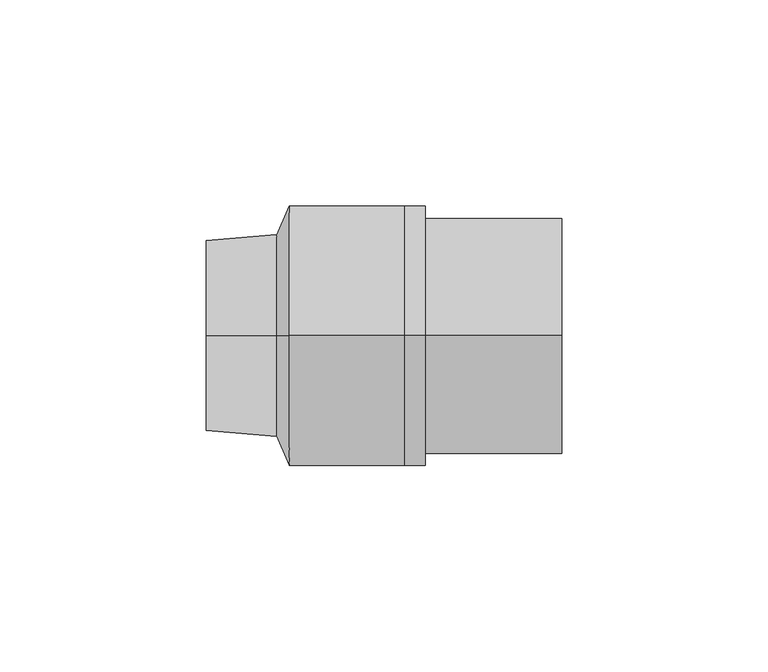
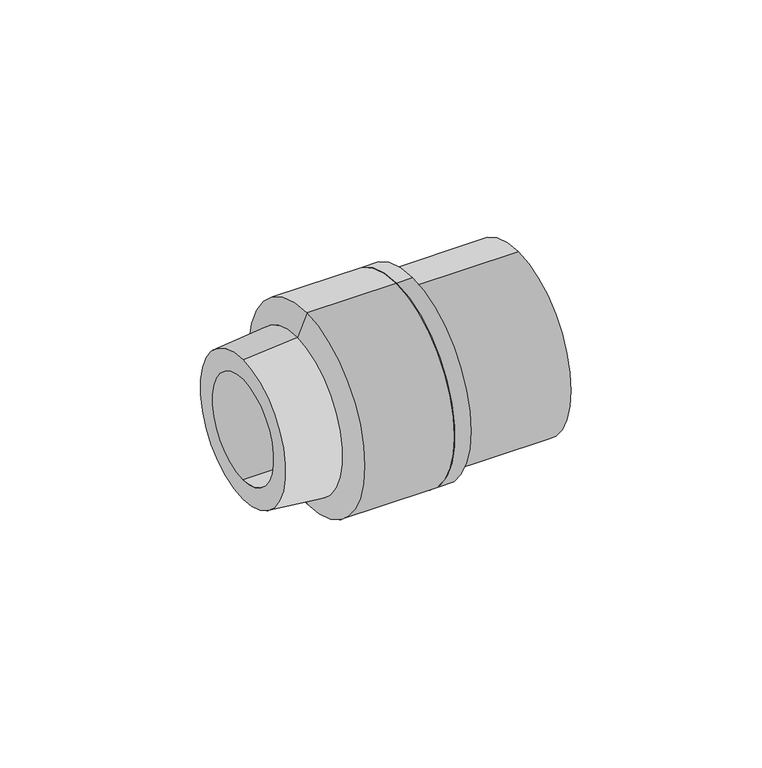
"""IFC4 building model written with IfcOpenShell, lengths in millimetres: pipe fitting geometry, Pipelife - PE - Zaślepka : Pipelife - PE - Zaślepka."""

from ifc_helpers import new_model, si_unit, point, frame, origin, origin_2d, place, context, project, spatial, polyline, circle_curve, trimmed, segment, composite_curve, outline, extrude, source, transform, mapped, element, save
from ifc_brep_helpers import plane_surface, cylinder_surface, revolved_surface, advanced_brep


def pipe_fitting_5493825f(model_context):
    return source(origin(), model_context, "Body", "SolidModel", [
        advanced_brep(
        [(-27.0, 0.0, -28.5), (-27.0, 0.0, 28.5), (-27.0, 0.0, 16.5), (-27.0, 0.0, -16.5), (6.0, 0.0, -28.5), (6.0, 0.0, 28.5), (0.0, 0.0, -16.5), (0.0, 0.0, 16.5)],
        [
            (0, 1, circle_curve(frame((-27.0, 0.0, 0.0), z_axis=(-1.0, 0.0, 0.0), x_axis=(0.0, 0.0, 1.0)), 28.5)),
            (1, 0, circle_curve(frame((-27.0, 0.0, 0.0), z_axis=(-1.0, 0.0, 0.0), x_axis=(0.0, 0.0, 1.0)), 28.5)),
            (2, 3, circle_curve(frame((-27.0, 0.0, 0.0), z_axis=(1.0, 0.0, 0.0), x_axis=(0.0, 0.0, 1.0)), 16.5)),
            (3, 2, circle_curve(frame((-27.0, 0.0, 0.0), z_axis=(1.0, 0.0, 0.0), x_axis=(0.0, 0.0, 1.0)), 16.5)),
            (4, 5, circle_curve(frame((6.0, 0.0, 0.0), z_axis=(1.0, 0.0, 0.0), x_axis=(0.0, 0.0, 1.0)), 28.5)),
            (5, 4, circle_curve(frame((6.0, 0.0, 0.0), z_axis=(1.0, 0.0, 0.0), x_axis=(0.0, 0.0, 1.0)), 28.5)),
            (0, 4),
            (5, 1),
            (6, 7, circle_curve(frame((0.0, 0.0, 0.0), z_axis=(-1.0, 0.0, 0.0), x_axis=(0.0, 0.0, 1.0)), 16.5)),
            (7, 6, circle_curve(frame((0.0, 0.0, 0.0), z_axis=(-1.0, 0.0, 0.0), x_axis=(0.0, 0.0, 1.0)), 16.5)),
            (6, 3),
            (2, 7),
        ],
        [
            plane_surface(frame((-27.0, 0.0, 0.0), z_axis=(-1.0, 0.0, 0.0), x_axis=(0.0, -1.0, 0.0))),
            plane_surface(frame((6.0, 0.0, 0.0), z_axis=(1.0, 0.0, 0.0), x_axis=(0.0, -1.0, 0.0))),
            cylinder_surface(frame((-27.0, 0.0, 0.0), z_axis=(-1.0, 0.0, 0.0), x_axis=(0.0, 0.0, 1.0)), 28.5),
            plane_surface(frame((0.0, 0.0, 0.0), z_axis=(-1.0, 0.0, 0.0), x_axis=(0.0, -1.0, 0.0))),
            revolved_surface(polyline([(-27.0, 0.0, 16.5), (0.0, 0.0, 16.5)]), (-80.0, 0.0, 0.0), (-1.0, 0.0, 0.0)),
        ],
        [
            (0, [[1, 2], [3, 4]]),
            (1, [[5, 6]]),
            (2, [[-1, 7, -6, 8]]),
            (2, [[-2, -8, -5, -7]]),
            (3, [[9, 10]]),
            (4, [[-9, 11, -3, 12]]),
            (4, [[-10, -12, -4, -11]]),
        ],
    ),
        extrude(outline(composite_curve([segment(trimmed(circle_curve(origin_2d(), 31.5), [point((0.0, -31.5))], [point((0.0, 31.5))], False, "CARTESIAN"), True, "CONTINUOUS"), segment(trimmed(circle_curve(origin_2d(), 31.5), [point((0.0, 31.5))], [point((0.0, -31.5))], False, "CARTESIAN"), True, "CONTINUOUS")], self_intersect=False), holes=[composite_curve([segment(trimmed(circle_curve(origin_2d(), 16.5), [point((0.0, 16.5))], [point((0.0, -16.5))], True, "CARTESIAN"), True, "CONTINUOUS"), segment(trimmed(circle_curve(origin_2d(), 16.5), [point((0.0, -16.5))], [point((0.0, 16.5))], True, "CARTESIAN"), True, "CONTINUOUS")], self_intersect=False)]), frame((-32.0, 0.0, 0.0), z_axis=(1.0, 0.0, 0.0), x_axis=(0.0, 1.0, 0.0)), (0.0, 0.0, 1.0), 5.0),
        advanced_brep(
        [(-32.0, 0.0, -31.5), (-32.0, 0.0, 31.5), (-32.0, 0.0, -16.5), (-32.0, 0.0, 16.5), (-60.0, 0.0, 31.5), (-60.0, 0.0, -31.5), (-80.0, 0.0, -16.5), (-80.0, 0.0, 16.5), (-63.0, 0.0, -24.5), (-63.0, 0.0, 24.5), (-80.0, 0.0, 23.0), (-80.0, 0.0, -23.0)],
        [
            (0, 1, circle_curve(frame((-32.0, 0.0, 0.0), z_axis=(1.0, 0.0, 0.0), x_axis=(0.0, 0.0, 1.0)), 31.5)),
            (1, 0, circle_curve(frame((-32.0, 0.0, 0.0), z_axis=(1.0, 0.0, 0.0), x_axis=(0.0, 0.0, 1.0)), 31.5)),
            (2, 3, circle_curve(frame((-32.0, 0.0, 0.0), z_axis=(-1.0, 0.0, 0.0), x_axis=(0.0, 0.0, 1.0)), 16.5)),
            (3, 2, circle_curve(frame((-32.0, 0.0, 0.0), z_axis=(-1.0, 0.0, 0.0), x_axis=(0.0, 0.0, 1.0)), 16.5)),
            (1, 4),
            (4, 5, circle_curve(frame((-60.0, 0.0, 0.0), z_axis=(1.0, 0.0, 0.0), x_axis=(0.0, 0.0, 1.0)), 31.5)),
            (5, 0),
            (5, 4, circle_curve(frame((-60.0, 0.0, 0.0), z_axis=(1.0, 0.0, 0.0), x_axis=(0.0, 0.0, 1.0)), 31.5)),
            (2, 6),
            (6, 7, circle_curve(frame((-80.0, 0.0, 0.0), z_axis=(-1.0, 0.0, 0.0), x_axis=(0.0, 0.0, 1.0)), 16.5)),
            (7, 3),
            (7, 6, circle_curve(frame((-80.0, 0.0, 0.0), z_axis=(-1.0, 0.0, 0.0), x_axis=(0.0, 0.0, 1.0)), 16.5)),
            (5, 8),
            (8, 9, circle_curve(frame((-63.0, 0.0, 0.0), z_axis=(1.0, 0.0, 0.0), x_axis=(0.0, 0.0, 1.0)), 24.5)),
            (9, 4),
            (9, 8, circle_curve(frame((-63.0, 0.0, 0.0), z_axis=(1.0, 0.0, 0.0), x_axis=(0.0, 0.0, -1.0)), 24.5)),
            (10, 11, circle_curve(frame((-80.0, 0.0, 0.0), z_axis=(-1.0, 0.0, 0.0), x_axis=(0.0, 0.0, 1.0)), 23.0)),
            (11, 10, circle_curve(frame((-80.0, 0.0, 0.0), z_axis=(-1.0, 0.0, 0.0), x_axis=(0.0, 0.0, -1.0)), 23.0)),
            (10, 9),
            (8, 11),
        ],
        [
            plane_surface(frame((-32.0, 0.0, 0.0), z_axis=(1.0, 0.0, 0.0), x_axis=(0.0, -1.0, 0.0))),
            cylinder_surface(frame((-60.0, 0.0, 0.0), z_axis=(-1.0, 0.0, 0.0), x_axis=(0.0, 0.0, 1.0)), 31.5),
            revolved_surface(polyline([(-80.0, 0.0, 16.5), (-32.0, 0.0, 16.5)]), (-80.0, 0.0, 0.0), (-1.0, 0.0, 0.0)),
            revolved_surface(polyline([(-63.0, 0.0, -24.5), (-60.0, 0.0, -31.5)]), (-73.5, 0.0, 0.0), (1.0, 0.0, 0.0)),
            plane_surface(frame((-80.0, 0.0, 0.0), z_axis=(-1.0, 0.0, 0.0), x_axis=(0.0, 1.0, 0.0))),
            revolved_surface(polyline([(-80.0, 0.0, 23.00000000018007), (-63.0, 0.0, 24.5)]), (-340.6666667, 0.0, 0.0), (1.0, 0.0, 0.0)),
            revolved_surface(polyline([(-80.0, 0.0, -23.00000000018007), (-63.0, 0.0, -24.5)]), (-340.6666667, 0.0, 0.0), (1.0, 0.0, 0.0)),
        ],
        [
            (0, [[1, 2], [3, 4]]),
            (1, [[-2, 5, 6, 7]]),
            (1, [[-1, -7, 8, -5]]),
            (2, [[9, 10, 11, -3]]),
            (2, [[-9, -4, -11, 12]]),
            (3, [[13, 14, 15, -8]]),
            (3, [[-13, -6, -15, 16]]),
            (4, [[17, 18], [-10, -12]]),
            (5, [[-17, 19, -14, 20]]),
            (6, [[-18, -20, -16, -19]]),
        ],
    ),
    ])


if __name__ == "__main__":
    model = new_model("IFC4")
    model_context = context("Model", 3, world=origin())
    ifc_project = project(units=[si_unit("LENGTHUNIT", "METRE", prefix="MILLI")], contexts=[model_context])
    site = spatial("IfcSite", under=ifc_project)
    building = spatial("IfcBuilding", under=site)
    placement = place(None, origin())
    pipe_fitting_shape = pipe_fitting_5493825f(model_context)
    element("IfcPipeFitting", 1, ObjectType="Pipelife - PE - Zaślepka : Pipelife - PE - Zaślepka", at=placement, inside=building, context=model_context, shape_type="MappedRepresentation", body=[
        mapped(pipe_fitting_shape, transform((0.0, 0.0, 0.0), x_axis=(1.0, 0.0, 0.0), y_axis=(0.0, 1.0, 0.0), z_axis=(0.0, 0.0, 1.0))),
    ])
    save(model, "model.ifc")
